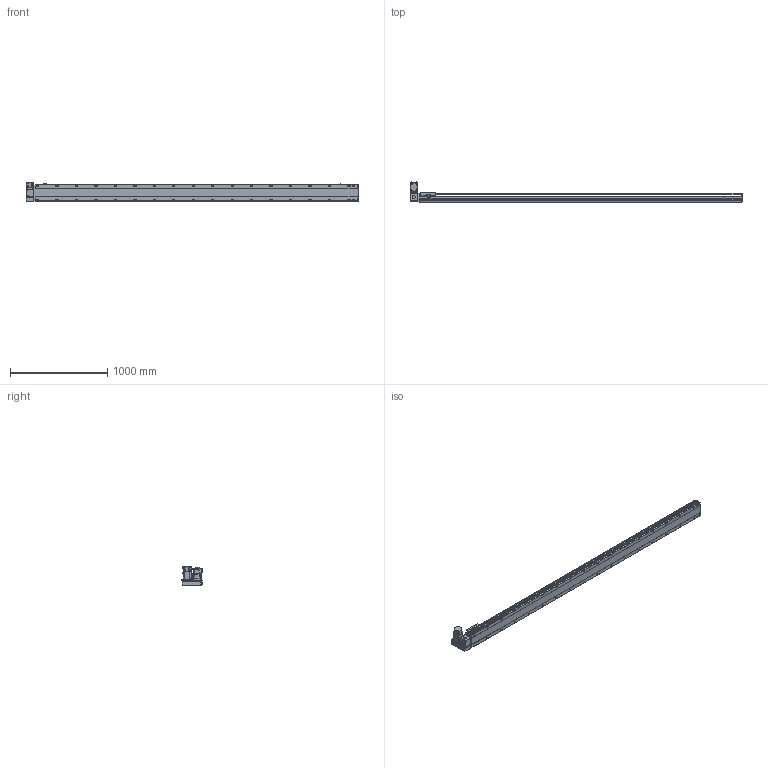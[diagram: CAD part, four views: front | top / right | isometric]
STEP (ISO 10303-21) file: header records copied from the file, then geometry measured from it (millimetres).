
FILE_DESCRIPTION(/* description */ ('STEP AP214'),/* implementation_level */ '2;1');
FILE_NAME(/* name */ 'PBS170-P40-S3050-LU-T75-C1-N(0)',/* time_stamp */ '2022-06-07T10:18:13+02:00',/* author */ ('License CC BY-ND 4.0'),/* organization */ ('CADENAS'),/* preprocessor_version */ 'ST-DEVELOPER v18.102',/* originating_system */ 'PARTsolutions',/* authorisation */ ' ');
FILE_SCHEMA (('AUTOMOTIVE_DESIGN {1 0 10303 214 3 1 1}'));
Length unit declared in the file: millimetre
Products named in the file (7): PBS170-P40-S3050-LU-T75-C1-N(0); PBS170_sensor; PBS170_plant; PBS170_sliser; T75-p1; PBS170T-LU_motors; PBS170-S3050()_body
Assembly tree (8 placements, depth 2):
  PBS170-P40-S3050-LU-T75-C1-N(0)
    PBS170_sensor  x3
    PBS170_plant
    PBS170_sliser
    T75-p1
    PBS170T-LU_motors
    PBS170-S3050()_body
Bounding box: 3413 x 206 x 197.3 mm (x, y, z)
Volume: 25594545.6 mm3; surface area: 3203559.3 mm2
Topology: 8 solids, 8 shells, 1242 faces, 3275 edges, 2134 vertices
Faces by surface type: plane 747, cylinder 419, cone 66, sphere 8, torus 2
Full cylindrical faces by diameter (mm): 3.242 x4, 4 x2, 4.4 x4, 4.5 x6, 4.917 x4, 6 x9, 6.647 x44, 7 x2, 7.5 x4, 8 x8, 8.5 x36, 10 x4, 10.5 x36, 11 x2, 30 x2, 40 x1, 70 x1
Entity records: 35698 total; most frequent: CARTESIAN_POINT 6833, DIRECTION 6000, ORIENTED_EDGE 5628, EDGE_CURVE 2814, AXIS2_PLACEMENT_3D 2137, VERTEX_POINT 1970, LINE 1726, VECTOR 1726
